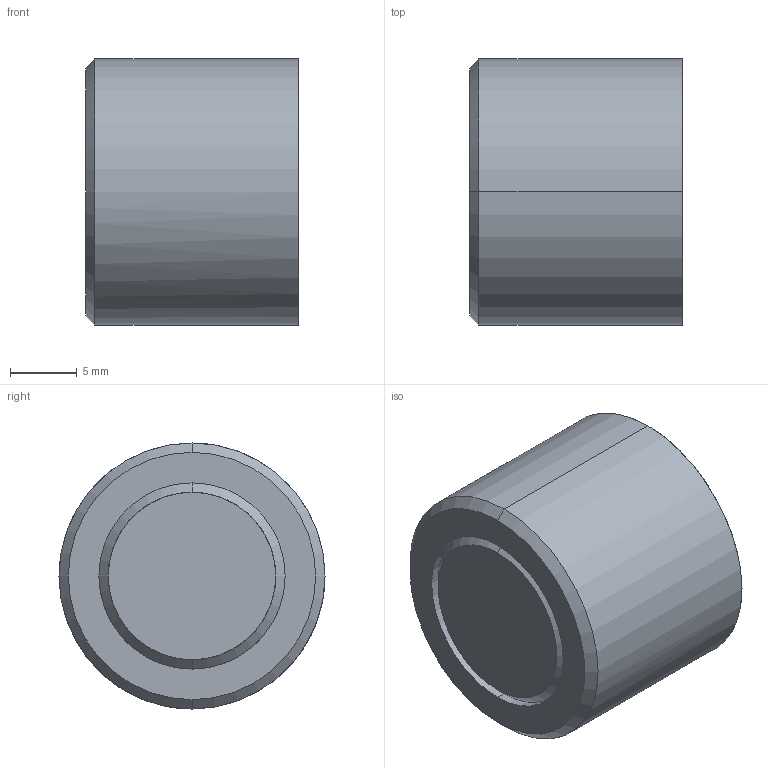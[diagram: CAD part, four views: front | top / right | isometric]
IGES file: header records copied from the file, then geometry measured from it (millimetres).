
Start section: START RECORD GO HERE.
Global section: file name: D375-20-A-DM-FA.igs; native system: DASSAULT SYSTEMES CATIA V5 R20 - www.3ds.com; preprocessor: CATIA Version 5 Release 20 ; author: Utente; organization: NB04-ASUS; date: 20210326.154156; units: millimetre
Bounding box: 16 x 20 x 20 mm (x, y, z)
Surface area: 3031.9 mm2 (no closed solid volume)
Topology: 0 solids, 0 shells, 216 faces, 1190 edges, 1188 vertices
Faces by surface type: plane 135, revolution 81
